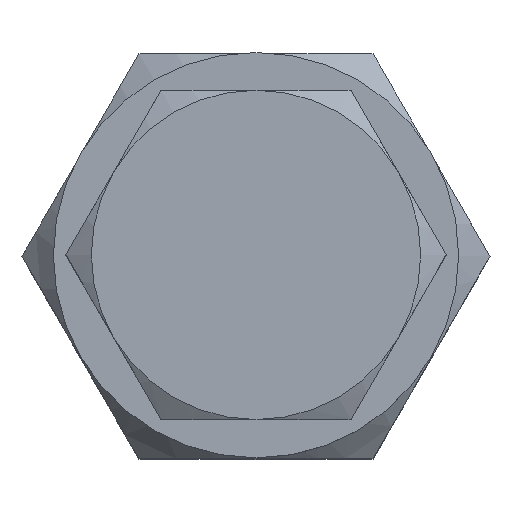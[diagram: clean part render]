
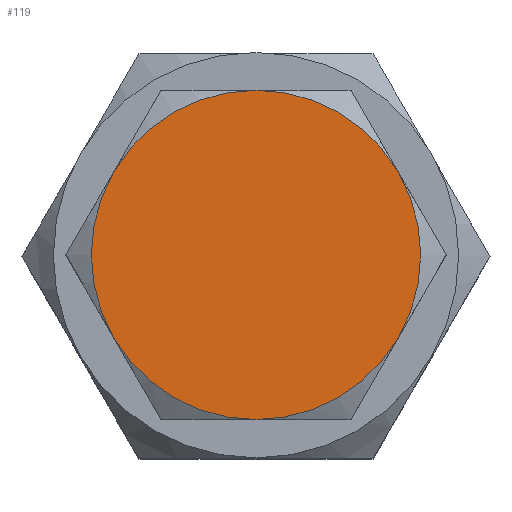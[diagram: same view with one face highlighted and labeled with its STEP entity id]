
A CAD part, top view. The second image highlights one B-rep face of the part: STEP entity #119.
In plain terms, the highlighted planar face has unit normal (0, 0, 1).
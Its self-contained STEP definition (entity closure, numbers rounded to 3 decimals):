
#119 = ADVANCED_FACE( '', ( #280 ), #281, .T. );
#280 = FACE_OUTER_BOUND( '', #486, .T. );
#281 = PLANE( '', #487 );
#486 = EDGE_LOOP( '', ( #760, #761, #762, #763, #764, #765 ) );
#487 = AXIS2_PLACEMENT_3D( '', #766, #767, #768 );
#760 = ORIENTED_EDGE( '', *, *, #1128, .T. );
#761 = ORIENTED_EDGE( '', *, *, #1104, .T. );
#762 = ORIENTED_EDGE( '', *, *, #1138, .T. );
#763 = ORIENTED_EDGE( '', *, *, #1139, .T. );
#764 = ORIENTED_EDGE( '', *, *, #1140, .T. );
#765 = ORIENTED_EDGE( '', *, *, #1067, .T. );
#766 = CARTESIAN_POINT( '', ( 3.753, 6.5, 44.1 ) );
#767 = DIRECTION( '', ( 0., 0., 1. ) );
#768 = DIRECTION( '', ( 1., 0., 0. ) );
#1067 = EDGE_CURVE( '', #1232, #1229, #1233, .T. );
#1104 = EDGE_CURVE( '', #1291, #1292, #1293, .T. );
#1128 = EDGE_CURVE( '', #1229, #1291, #1329, .T. );
#1138 = EDGE_CURVE( '', #1292, #1343, #1344, .T. );
#1139 = EDGE_CURVE( '', #1343, #1345, #1346, .T. );
#1140 = EDGE_CURVE( '', #1345, #1232, #1347, .T. );
#1229 = VERTEX_POINT( '', #1456 );
#1232 = VERTEX_POINT( '', #1466 );
#1233 = CIRCLE( '', #1467, 6.5 );
#1291 = VERTEX_POINT( '', #1606 );
#1292 = VERTEX_POINT( '', #1607 );
#1293 = CIRCLE( '', #1608, 6.5 );
#1329 = CIRCLE( '', #1688, 6.5 );
#1343 = VERTEX_POINT( '', #1727 );
#1344 = CIRCLE( '', #1728, 6.5 );
#1345 = VERTEX_POINT( '', #1729 );
#1346 = CIRCLE( '', #1730, 6.5 );
#1347 = CIRCLE( '', #1731, 6.5 );
#1456 = CARTESIAN_POINT( '', ( 5.629, -3.25, 44.1 ) );
#1466 = CARTESIAN_POINT( '', ( 0., -6.5, 44.1 ) );
#1467 = AXIS2_PLACEMENT_3D( '', #2024, #2025, #2026 );
#1606 = CARTESIAN_POINT( '', ( 5.629, 3.25, 44.1 ) );
#1607 = CARTESIAN_POINT( '', ( 0., 6.5, 44.1 ) );
#1608 = AXIS2_PLACEMENT_3D( '', #2068, #2069, #2070 );
#1688 = AXIS2_PLACEMENT_3D( '', #2088, #2089, #2090 );
#1727 = CARTESIAN_POINT( '', ( -5.629, 3.25, 44.1 ) );
#1728 = AXIS2_PLACEMENT_3D( '', #2096, #2097, #2098 );
#1729 = CARTESIAN_POINT( '', ( -5.629, -3.25, 44.1 ) );
#1730 = AXIS2_PLACEMENT_3D( '', #2099, #2100, #2101 );
#1731 = AXIS2_PLACEMENT_3D( '', #2102, #2103, #2104 );
#2024 = CARTESIAN_POINT( '', ( 0., 0., 44.1 ) );
#2025 = DIRECTION( '', ( 0., 0., 1. ) );
#2026 = DIRECTION( '', ( 1., 0., 0. ) );
#2068 = CARTESIAN_POINT( '', ( 0., 0., 44.1 ) );
#2069 = DIRECTION( '', ( 0., 0., 1. ) );
#2070 = DIRECTION( '', ( 1., 0., 0. ) );
#2088 = CARTESIAN_POINT( '', ( 0., 0., 44.1 ) );
#2089 = DIRECTION( '', ( 0., 0., 1. ) );
#2090 = DIRECTION( '', ( 1., 0., 0. ) );
#2096 = CARTESIAN_POINT( '', ( 0., 0., 44.1 ) );
#2097 = DIRECTION( '', ( 0., 0., 1. ) );
#2098 = DIRECTION( '', ( 1., 0., 0. ) );
#2099 = CARTESIAN_POINT( '', ( 0., 0., 44.1 ) );
#2100 = DIRECTION( '', ( 0., 0., 1. ) );
#2101 = DIRECTION( '', ( 1., 0., 0. ) );
#2102 = CARTESIAN_POINT( '', ( 0., 0., 44.1 ) );
#2103 = DIRECTION( '', ( 0., 0., 1. ) );
#2104 = DIRECTION( '', ( 1., 0., 0. ) );
